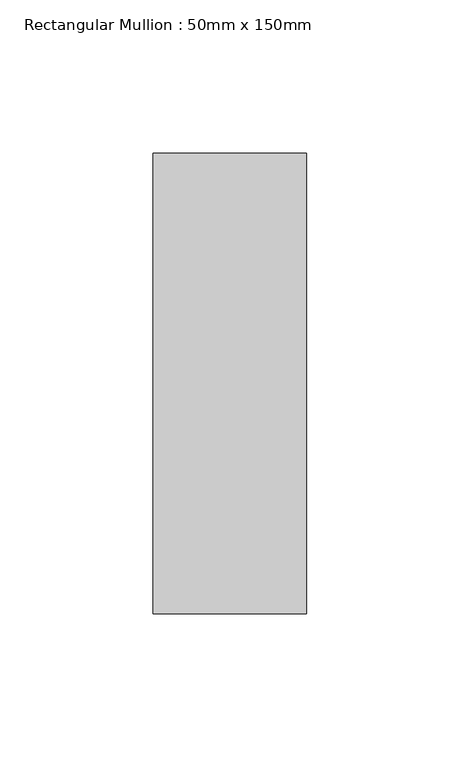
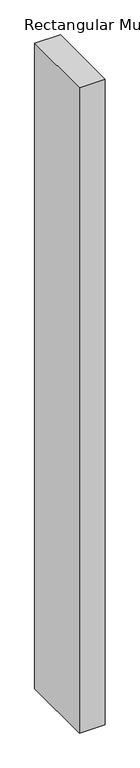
"""IFC4 building model written with IfcOpenShell, lengths in millimetres: member geometry, Rectangular Mullion : 50mm x 150mm."""

from ifc_helpers import new_model, si_unit, frame, origin, place, context, project, spatial, polyline, outline, extrude, source, transform, mapped, element, save


def rectangular_mullion_50mm_x_150mm_142f5ab9(model_context):
    return source(origin(), model_context, "Body", "SweptSolid", [
        extrude(outline(polyline([(25.0, 75.0), (25.0, -75.0), (-25.0, -75.0), (-25.0, 75.0), (25.0, 75.0)])), frame((0.0, 0.0, -1321.6199625), z_axis=(0.0, 0.0, 1.0), x_axis=(1.0, 0.0, 0.0)), (0.0, 0.0, 1.0), 1321.6199625),
    ])


if __name__ == "__main__":
    model = new_model("IFC4")
    model_context = context("Model", 3, world=origin())
    ifc_project = project(units=[si_unit("LENGTHUNIT", "METRE", prefix="MILLI")], contexts=[model_context])
    site = spatial("IfcSite", under=ifc_project)
    building = spatial("IfcBuilding", under=site)
    placement = place(None, origin())
    rectangular_mullion_50mm_x_150mm_shape = rectangular_mullion_50mm_x_150mm_142f5ab9(model_context)
    element("IfcMember", 1, ObjectType="Rectangular Mullion : 50mm x 150mm", at=placement, inside=building, context=model_context, shape_type="MappedRepresentation", body=[
        mapped(rectangular_mullion_50mm_x_150mm_shape, transform((0.0, 0.0, 0.0), x_axis=(1.0, 0.0, 0.0), y_axis=(0.0, 1.0, 0.0), z_axis=(0.0, 0.0, 1.0))),
    ])
    save(model, "model.ifc")
